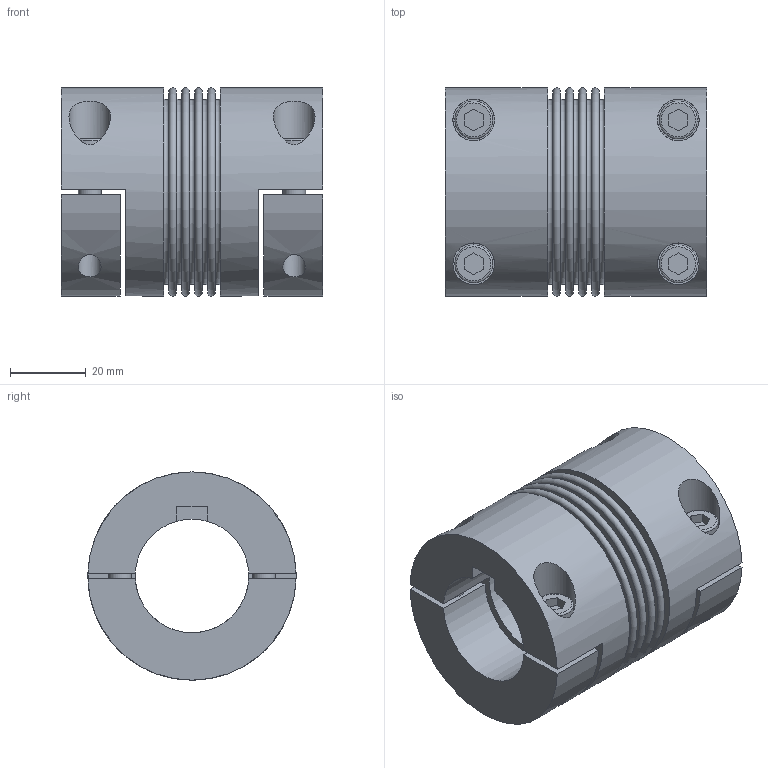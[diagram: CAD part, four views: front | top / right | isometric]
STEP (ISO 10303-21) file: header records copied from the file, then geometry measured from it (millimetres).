
FILE_DESCRIPTION(/* description */ ('STEP AP214'),/* implementation_level */ '2;1');
FILE_NAME(/* name */ 'C:\Diequa Files\DieQua Coupling\BCS\STP\BCS.30.69.#.#.stp',/* time_stamp */ '2018-11-15T09:16:12-06:00',/* author */ ('DiequaCAD'),/* organization */ (''),/* preprocessor_version */ 'ST-DEVELOPER v17.2',/* originating_system */ 'Autodesk Inventor 2019',/* authorisation */ ' ');
FILE_SCHEMA (('AUTOMOTIVE_DESIGN { 1 0 10303 214 3 1 1 }'));
Length unit declared in the file: millimetre
Products named in the file (1): BKH_30_69_30_PFN_30_PFN_5
Bounding box: 69 x 55 x 55 mm (x, y, z)
Volume: 102962.2 mm3; surface area: 33011.4 mm2
Topology: 1 solids, 1 shells, 110 faces, 261 edges, 181 vertices
Faces by surface type: plane 74, cylinder 23, torus 13
Full cylindrical faces by diameter (mm): 6 x8, 10 x4, 11 x4, 30 x1, 55 x2
Entity records: 3577 total; most frequent: CARTESIAN_POINT 856, DIRECTION 575, ORIENTED_EDGE 522, EDGE_CURVE 261, AXIS2_PLACEMENT_3D 216, VERTEX_POINT 181, EDGE_LOOP 144, LINE 143
